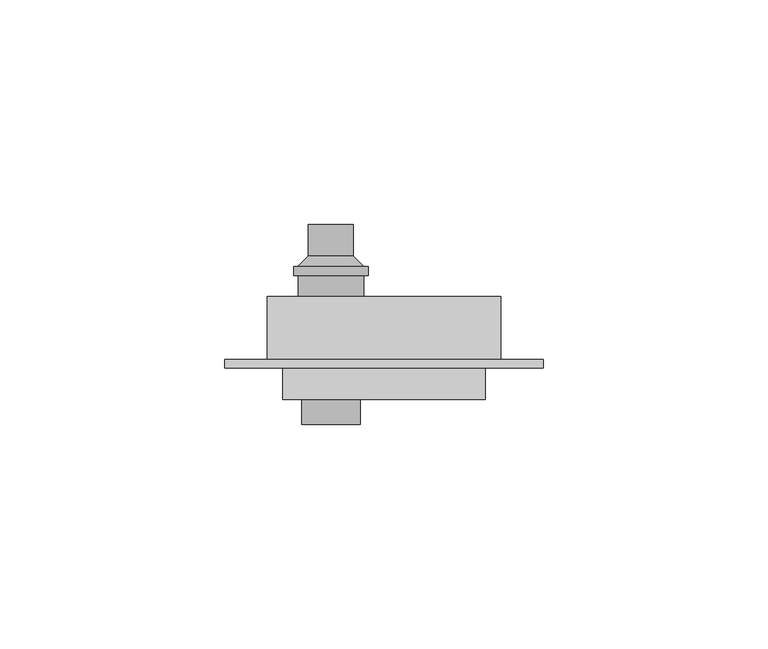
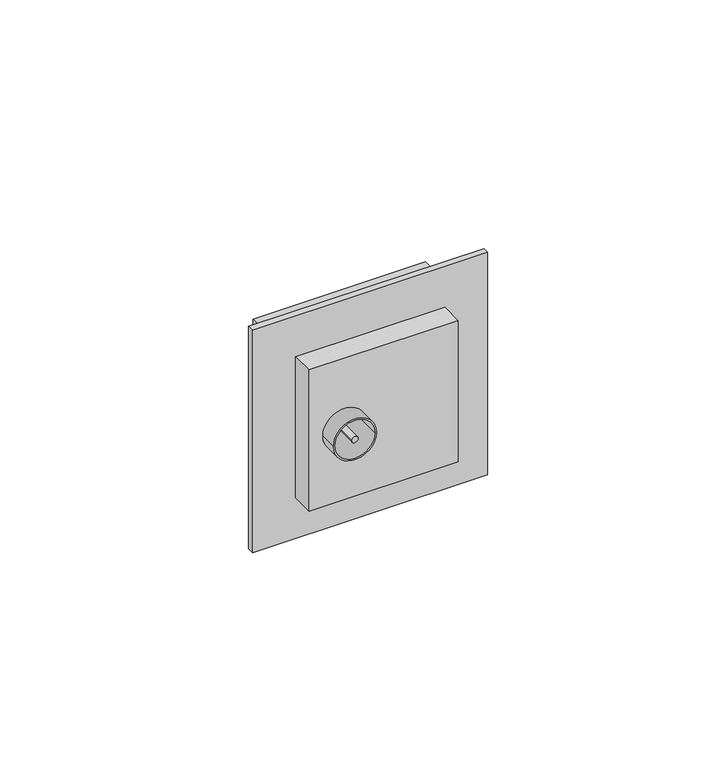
"""IFC4 building model written with IfcOpenShell, lengths in millimetres: proxy geometry."""

from ifc_helpers import new_model, si_unit, frame, origin, place, context, project, spatial, polyline, circle_curve, source, transform, mapped, element, save
from ifc_brep_helpers import plane_surface, cylinder_surface, revolved_surface, advanced_brep


def electrical_fixtures_c774a66e(model_context):
    return source(origin(), model_context, "Body", "AdvancedBrep", [
        advanced_brep(
        [(-19.1088447, -20.7, 0.0), (-4.5244887, -20.7, 0.0), (-11.8166667, -20.7, 0.0), (-19.1088447, -16.039678, 0.0), (-4.5244887, -16.039678, 0.0), (-20.1088447, -16.039678, 0.0), (-3.5244887, -16.039678, 0.0), (-20.1088447, -14.039678, 0.0), (-3.5244887, -14.039678, 0.0), (-19.1563447, -14.039678, 0.0), (-4.4769886, -14.039678, 0.0), (-16.8166667, -11.7, 0.0), (-6.8166667, -11.7, 0.0), (-16.8166667, -4.7, 0.0), (-6.8166667, -4.7, 0.0), (-11.8166667, -4.7, 0.0)],
        [
            (0, 1, circle_curve(frame((-11.8166667, -20.7, 0.0), z_axis=(0.0, -1.0, 0.0), x_axis=(1.0, 0.0, 0.0)), 7.292178)),
            (1, 2),
            (2, 0),
            (1, 0, circle_curve(frame((-11.8166667, -20.7, 0.0), z_axis=(0.0, -1.0, 0.0), x_axis=(1.0, 0.0, 0.0)), 7.292178)),
            (3, 4, circle_curve(frame((-11.8166667, -16.039678, 0.0), z_axis=(0.0, -1.0, 0.0), x_axis=(1.0, 0.0, 0.0)), 7.292178)),
            (4, 1),
            (0, 3),
            (4, 3, circle_curve(frame((-11.8166667, -16.039678, 0.0), z_axis=(0.0, -1.0, 0.0), x_axis=(1.0, 0.0, 0.0)), 7.292178)),
            (5, 6, circle_curve(frame((-11.8166667, -16.039678, 0.0), z_axis=(0.0, -1.0, 0.0), x_axis=(1.0, 0.0, 0.0)), 8.292178)),
            (6, 4),
            (3, 5),
            (6, 5, circle_curve(frame((-11.8166667, -16.039678, 0.0), z_axis=(0.0, -1.0, 0.0), x_axis=(1.0, 0.0, 0.0)), 8.292178)),
            (7, 8, circle_curve(frame((-11.8166667, -14.039678, 0.0), z_axis=(0.0, -1.0, 0.0), x_axis=(1.0, 0.0, 0.0)), 8.292178)),
            (8, 6),
            (5, 7),
            (8, 7, circle_curve(frame((-11.8166667, -14.039678, 0.0), z_axis=(0.0, -1.0, 0.0), x_axis=(1.0, 0.0, 0.0)), 8.292178)),
            (9, 10, circle_curve(frame((-11.8166667, -14.039678, 0.0), z_axis=(0.0, -1.0, 0.0), x_axis=(1.0, 0.0, 0.0)), 7.339678)),
            (10, 8),
            (7, 9),
            (10, 9, circle_curve(frame((-11.8166667, -14.039678, 0.0), z_axis=(0.0, -1.0, 0.0), x_axis=(1.0, 0.0, 0.0)), 7.339678)),
            (11, 12, circle_curve(frame((-11.8166667, -11.7, 0.0), z_axis=(0.0, -1.0, 0.0), x_axis=(1.0, 0.0, 0.0)), 5.0)),
            (12, 10),
            (9, 11),
            (12, 11, circle_curve(frame((-11.8166667, -11.7, 0.0), z_axis=(0.0, -1.0, 0.0), x_axis=(1.0, 0.0, 0.0)), 5.0)),
            (13, 14, circle_curve(frame((-11.8166667, -4.7, 0.0), z_axis=(0.0, -1.0, 0.0), x_axis=(1.0, 0.0, 0.0)), 5.0)),
            (14, 12),
            (11, 13),
            (14, 13, circle_curve(frame((-11.8166667, -4.7, 0.0), z_axis=(0.0, -1.0, 0.0), x_axis=(1.0, 0.0, 0.0)), 5.0)),
            (15, 14),
            (13, 15),
        ],
        [
            plane_surface(frame((-11.8166667, -20.7, 0.0), z_axis=(0.0, -1.0, 0.0), x_axis=(1.0, 0.0, 0.0))),
            cylinder_surface(frame((-11.8166667, 2000.0, 0.0), z_axis=(0.0, 1.0, 0.0), x_axis=(1.0, 0.0, 0.0)), 7.292178),
            plane_surface(frame((-11.8166667, -16.039678, 0.0), z_axis=(0.0, -1.0, 0.0), x_axis=(1.0, 0.0, 0.0))),
            cylinder_surface(frame((-11.8166667, 2000.0, 0.0), z_axis=(0.0, 1.0, 0.0), x_axis=(1.0, 0.0, 0.0)), 8.292178),
            plane_surface(frame((-11.8166667, -14.039678, 0.0), z_axis=(0.0, 1.0, 0.0), x_axis=(1.0, 0.0, 0.0))),
            revolved_surface(polyline([(-4.4769886, -14.039678, 0.0), (-6.8166667, -11.7, 0.0)]), (-11.8166667, 2000.0, 0.0), (0.0, 1.0, 0.0)),
            cylinder_surface(frame((-11.8166667, 2000.0, 0.0), z_axis=(0.0, 1.0, 0.0), x_axis=(1.0, 0.0, 0.0)), 5.0),
            plane_surface(frame((-11.8166667, -4.7, 0.0), z_axis=(0.0, 1.0, 0.0), x_axis=(1.0, 0.0, 0.0))),
        ],
        [
            (0, [[1, 2, 3]]),
            (0, [[4, -3, -2]]),
            (1, [[5, 6, -1, 7]]),
            (1, [[8, -7, -4, -6]]),
            (2, [[9, 10, -5, 11]]),
            (2, [[12, -11, -8, -10]]),
            (3, [[13, 14, -9, 15]]),
            (3, [[16, -15, -12, -14]]),
            (4, [[17, 18, -13, 19]]),
            (4, [[20, -19, -16, -18]]),
            (5, [[21, 22, -17, 23]]),
            (5, [[24, -23, -20, -22]]),
            (6, [[25, 26, -21, 27]]),
            (6, [[28, -27, -24, -26]]),
            (7, [[29, -25, 30]]),
            (7, [[-30, -28, -29]]),
        ],
    ),
        advanced_brep(
        [(22.5, -43.7, -22.5), (22.5, -43.7, 22.5), (-22.5, -43.7, 22.5), (-22.5, -43.7, -22.5), (-18.3166667, -43.7, 0.0), (-5.3166667, -43.7, 0.0), (-22.5, -36.7, -22.5), (22.5, -36.7, -22.5), (-22.5, -36.7, 22.5), (22.5, -36.7, 22.5), (35.45, -34.7, -35.45), (-35.45, -34.7, -35.45), (-35.45, -34.7, 35.45), (35.45, -34.7, 35.45), (-26.0, -34.7, -26.0), (26.0, -34.7, -26.0), (26.0, -34.7, 26.0), (-26.0, -34.7, 26.0), (35.45, -36.7, -35.45), (35.45, -36.7, 35.45), (-35.45, -36.7, 35.45), (-35.45, -36.7, -35.45), (-5.8166667, -36.7, 0.0), (-17.8166667, -36.7, 0.0), (-10.8166667, -36.7, 0.0), (-12.8166667, -36.7, 0.0), (26.0, -20.7, -26.0), (-26.0, -20.7, -26.0), (-26.0, -20.7, 26.0), (26.0, -20.7, 26.0), (-17.8166667, -49.2, 0.0), (-5.8166667, -49.2, 0.0), (-12.8166667, -49.2, 0.0), (-10.8166667, -49.2, 0.0), (-18.3166667, -49.2, 0.0), (-5.3166667, -49.2, 0.0)],
        [
            (0, 1),
            (1, 2),
            (2, 3),
            (3, 0),
            (4, 5, circle_curve(frame((-11.8166667, -43.7, 0.0), z_axis=(0.0, 1.0, 0.0), x_axis=(1.0, 0.0, 0.0)), 6.5)),
            (5, 4, circle_curve(frame((-11.8166667, -43.7, 0.0), z_axis=(0.0, 1.0, 0.0), x_axis=(1.0, 0.0, 0.0)), 6.5)),
            (3, 6),
            (6, 7),
            (7, 0),
            (2, 8),
            (8, 6),
            (1, 9),
            (9, 8),
            (7, 9),
            (10, 11),
            (11, 12),
            (12, 13),
            (13, 10),
            (14, 15),
            (15, 16),
            (16, 17),
            (17, 14),
            (18, 19),
            (19, 20),
            (20, 21),
            (21, 18),
            (22, 23, circle_curve(frame((-11.8166667, -36.7, 0.0), z_axis=(0.0, -1.0, 0.0), x_axis=(1.0, 0.0, 0.0)), 6.0)),
            (23, 22, circle_curve(frame((-11.8166667, -36.7, 0.0), z_axis=(0.0, -1.0, 0.0), x_axis=(1.0, 0.0, 0.0)), 6.0)),
            (24, 25, circle_curve(frame((-11.8166667, -36.7, 0.0), z_axis=(0.0, 1.0, 0.0), x_axis=(1.0, 0.0, 0.0)), 1.0)),
            (25, 24, circle_curve(frame((-11.8166667, -36.7, 0.0), z_axis=(0.0, 1.0, 0.0), x_axis=(1.0, 0.0, 0.0)), 1.0)),
            (10, 18),
            (21, 11),
            (20, 12),
            (19, 13),
            (26, 27),
            (27, 28),
            (28, 29),
            (29, 26),
            (26, 15),
            (14, 27),
            (17, 28),
            (16, 29),
            (30, 23),
            (22, 31),
            (31, 30, circle_curve(frame((-11.8166667, -49.2, 0.0), z_axis=(0.0, -1.0, 0.0), x_axis=(1.0, 0.0, 0.0)), 6.0)),
            (30, 31, circle_curve(frame((-11.8166667, -49.2, 0.0), z_axis=(0.0, -1.0, 0.0), x_axis=(1.0, 0.0, 0.0)), 6.0)),
            (32, 25),
            (24, 33),
            (33, 32, circle_curve(frame((-11.8166667, -49.2, 0.0), z_axis=(0.0, 1.0, 0.0), x_axis=(1.0, 0.0, 0.0)), 1.0)),
            (32, 33, circle_curve(frame((-11.8166667, -49.2, 0.0), z_axis=(0.0, 1.0, 0.0), x_axis=(1.0, 0.0, 0.0)), 1.0)),
            (34, 35, circle_curve(frame((-11.8166667, -49.2, 0.0), z_axis=(0.0, -1.0, 0.0), x_axis=(1.0, 0.0, 0.0)), 6.5)),
            (35, 34, circle_curve(frame((-11.8166667, -49.2, 0.0), z_axis=(0.0, -1.0, 0.0), x_axis=(1.0, 0.0, 0.0)), 6.5)),
            (35, 5),
            (4, 34),
        ],
        [
            plane_surface(frame((-22.5, -43.7, -22.5), z_axis=(0.0, -1.0, 0.0), x_axis=(1.0, 0.0, 0.0))),
            plane_surface(frame((22.5, -36.7, -22.5), z_axis=(0.0, 0.0, -1.0), x_axis=(0.0, -1.0, 0.0))),
            plane_surface(frame((-22.5, -36.7, -22.5), z_axis=(-1.0, 0.0, 0.0), x_axis=(0.0, -1.0, 0.0))),
            plane_surface(frame((-22.5, -36.7, 22.5), z_axis=(0.0, 0.0, 1.0), x_axis=(0.0, -1.0, 0.0))),
            plane_surface(frame((22.5, -36.7, 22.5), z_axis=(1.0, 0.0, 0.0), x_axis=(0.0, -1.0, 0.0))),
            plane_surface(frame((-35.45, -34.7, -35.45), z_axis=(0.0, 1.0, 0.0), x_axis=(-1.0, 0.0, 0.0))),
            plane_surface(frame((-35.45, -36.7, -35.45), z_axis=(0.0, -1.0, 0.0), x_axis=(1.0, 0.0, 0.0))),
            plane_surface(frame((35.45, -34.7, -35.45), z_axis=(0.0, 0.0, -1.0), x_axis=(0.0, -1.0, 0.0))),
            plane_surface(frame((-35.45, -34.7, -35.45), z_axis=(-1.0, 0.0, 0.0), x_axis=(0.0, -1.0, 0.0))),
            plane_surface(frame((-35.45, -34.7, 35.45), z_axis=(0.0, 0.0, 1.0), x_axis=(0.0, -1.0, 0.0))),
            plane_surface(frame((35.45, -34.7, 35.45), z_axis=(1.0, 0.0, 0.0), x_axis=(0.0, -1.0, 0.0))),
            plane_surface(frame((-26.0, -20.7, -26.0), z_axis=(0.0, 1.0, 0.0), x_axis=(-1.0, 0.0, 0.0))),
            plane_surface(frame((26.0, -20.7, -26.0), z_axis=(0.0, 0.0, -1.0), x_axis=(0.0, -1.0, 0.0))),
            plane_surface(frame((-26.0, -20.7, -26.0), z_axis=(-1.0, 0.0, 0.0), x_axis=(0.0, -1.0, 0.0))),
            plane_surface(frame((-26.0, -20.7, 26.0), z_axis=(0.0, 0.0, 1.0), x_axis=(0.0, -1.0, 0.0))),
            plane_surface(frame((26.0, -20.7, 26.0), z_axis=(1.0, 0.0, 0.0), x_axis=(0.0, -1.0, 0.0))),
            revolved_surface(polyline([(-5.816666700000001, -36.7, 0.0), (-5.816666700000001, -49.2, 0.0)]), (-11.8166667, -49.2, 0.0), (0.0, 1.0, 0.0)),
            cylinder_surface(frame((-11.8166667, -34.7, 0.0), z_axis=(0.0, -1.0, 0.0), x_axis=(1.0, 0.0, 0.0)), 1.0),
            plane_surface(frame((-5.3166667, -49.2, 0.0), z_axis=(0.0, -1.0, 0.0), x_axis=(0.0, 0.0, 1.0))),
            cylinder_surface(frame((-11.8166667, -49.2, 0.0), z_axis=(0.0, 1.0, 0.0), x_axis=(1.0, 0.0, 0.0)), 6.5),
        ],
        [
            (0, [[1, 2, 3, 4], [5, 6]]),
            (1, [[-4, 7, 8, 9]]),
            (2, [[-3, 10, 11, -7]]),
            (3, [[-2, 12, 13, -10]]),
            (4, [[-1, -9, 14, -12]]),
            (5, [[15, 16, 17, 18], [19, 20, 21, 22]]),
            (6, [[23, 24, 25, 26], [-8, -11, -13, -14]]),
            (6, [[27, 28], [29, 30]]),
            (7, [[-15, 31, -26, 32]]),
            (8, [[-16, -32, -25, 33]]),
            (9, [[-17, -33, -24, 34]]),
            (10, [[-18, -34, -23, -31]]),
            (11, [[35, 36, 37, 38]]),
            (12, [[-35, 39, -19, 40]]),
            (13, [[-36, -40, -22, 41]]),
            (14, [[-37, -41, -21, 42]]),
            (15, [[-38, -42, -20, -39]]),
            (16, [[43, -27, 44, 45]]),
            (16, [[-43, 46, -44, -28]]),
            (17, [[47, -29, 48, 49]]),
            (17, [[-47, 50, -48, -30]]),
            (18, [[-49, -50]]),
            (18, [[51, 52], [-45, -46]]),
            (19, [[-52, 53, -5, 54]]),
            (19, [[-51, -54, -6, -53]]),
        ],
    ),
    ])


if __name__ == "__main__":
    model = new_model("IFC4")
    model_context = context("Model", 3, world=origin())
    ifc_project = project(units=[si_unit("LENGTHUNIT", "METRE", prefix="MILLI")], contexts=[model_context])
    site = spatial("IfcSite", under=ifc_project)
    building = spatial("IfcBuilding", under=site)
    placement = place(None, origin())
    electrical_fixtures_shape = electrical_fixtures_c774a66e(model_context)
    element("IfcBuildingElementProxy", 1, Name="Electrical Fixtures", at=placement, inside=building, context=model_context, shape_type="MappedRepresentation", body=[
        mapped(electrical_fixtures_shape, transform((0.0, 0.0, 0.0), x_axis=(1.0, 0.0, 0.0), y_axis=(0.0, 1.0, 0.0), z_axis=(0.0, 0.0, 1.0))),
    ])
    save(model, "model.ifc")
